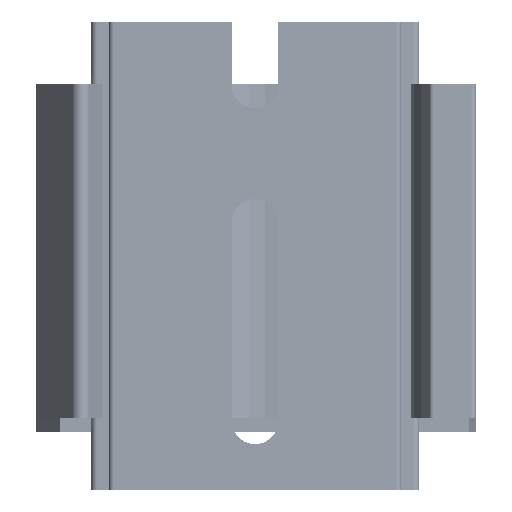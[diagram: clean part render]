
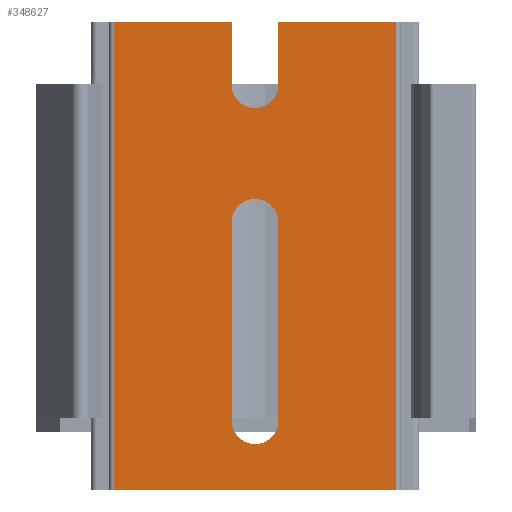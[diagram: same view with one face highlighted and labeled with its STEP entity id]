
A CAD part, front view. The second image highlights one B-rep face of the part: STEP entity #348627.
In plain terms, the highlighted planar face has unit normal (0, -1, 0).
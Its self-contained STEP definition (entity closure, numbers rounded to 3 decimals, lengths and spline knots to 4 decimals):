
#61416=CARTESIAN_POINT('',(2.7245,0.,-0.3861));
#61417=DIRECTION('',(0.,-1.,0.));
#61418=DIRECTION('',(-1.,0.,0.));
#61419=AXIS2_PLACEMENT_3D('',#61416,#61417,#61418);
#61421=DIRECTION('',(1.,0.,0.));
#61422=VECTOR('',#61421,0.4961);
#61423=CARTESIAN_POINT('',(2.8229,0.,-0.1223));
#61424=LINE('',#61423,#61422);
#61425=DIRECTION('',(-1.,0.,0.));
#61426=VECTOR('',#61425,1.189);
#61427=CARTESIAN_POINT('',(3.319,0.,
-2.0908));
#61428=LINE('',#61427,#61426);
#61429=DIRECTION('',(1.,0.,0.));
#61430=VECTOR('',#61429,0.4961);
#61431=CARTESIAN_POINT('',(2.13,0.,
-0.1223));
#61432=LINE('',#61431,#61430);
#61433=DIRECTION('',(0.,0.,-1.));
#61434=VECTOR('',#61433,0.2638);
#61435=CARTESIAN_POINT('',(2.6261,0.,-0.1223));
#61436=LINE('',#61435,#61434);
#61437=CARTESIAN_POINT('',(2.7245,0.,-1.7994));
#61438=DIRECTION('',(0.,-1.,0.));
#61439=DIRECTION('',(-1.,0.,0.));
#61440=AXIS2_PLACEMENT_3D('',#61437,#61438,#61439);
#61442=CARTESIAN_POINT('',(2.7245,0.,-0.9648));
#61443=DIRECTION('',(0.,-1.,0.));
#61444=DIRECTION('',(1.,0.,0.));
#61445=AXIS2_PLACEMENT_3D('',#61442,#61443,#61444);
#61447=DIRECTION('',(0.,0.,-1.));
#61448=VECTOR('',#61447,0.2638);
#61449=CARTESIAN_POINT('',(2.8229,0.,-0.1223));
#61450=LINE('',#61449,#61448);
#61627=DIRECTION('',(0.,0.,-1.));
#61628=VECTOR('',#61627,1.9685);
#61629=CARTESIAN_POINT('',(2.13,0.,
-0.1223));
#61630=LINE('',#61629,#61628);
#148387=DIRECTION('',(0.,0.,1.));
#148388=VECTOR('',#148387,1.9685);
#148389=CARTESIAN_POINT('',(3.319,0.,
-2.0908));
#148390=LINE('',#148389,#148388);
#148643=DIRECTION('',(0.,0.,1.));
#148644=VECTOR('',#148643,0.8346);
#148645=CARTESIAN_POINT('',(2.6261,0.,-1.7994));
#148646=LINE('',#148645,#148644);
#148655=DIRECTION('',(0.,0.,-1.));
#148656=VECTOR('',#148655,0.8346);
#148657=CARTESIAN_POINT('',(2.8229,0.,-0.9648));
#148658=LINE('',#148657,#148656);
#204957=CARTESIAN_POINT('',(2.13,0.,
-2.0908));
#204958=VERTEX_POINT('',#204957);
#204959=CARTESIAN_POINT('',(3.319,0.,
-2.0908));
#204961=VERTEX_POINT('',#204959);
#204987=CARTESIAN_POINT('',(2.6261,0.,-0.1223));
#204989=VERTEX_POINT('',#204987);
#204991=CARTESIAN_POINT('',(2.13,0.,
-0.1223));
#204993=VERTEX_POINT('',#204991);
#205018=CARTESIAN_POINT('',(2.8229,0.,-0.1223));
#205020=VERTEX_POINT('',#205018);
#205045=CARTESIAN_POINT('',(3.319,0.,
-0.1223));
#205046=VERTEX_POINT('',#205045);
#205047=CARTESIAN_POINT('',(2.6261,0.,-0.3861));
#205049=VERTEX_POINT('',#205047);
#205051=CARTESIAN_POINT('',(2.6261,0.,-1.7994));
#205052=CARTESIAN_POINT('',(2.8229,0.,-1.7994));
#205053=VERTEX_POINT('',#205051);
#205054=VERTEX_POINT('',#205052);
#205055=CARTESIAN_POINT('',(2.8229,0.,-0.9648));
#205056=VERTEX_POINT('',#205055);
#205057=CARTESIAN_POINT('',(2.6261,0.,-0.9648));
#205058=VERTEX_POINT('',#205057);
#205059=CARTESIAN_POINT('',(2.8229,0.,-0.3861));
#205060=VERTEX_POINT('',#205059);
#348595=CARTESIAN_POINT('',(2.7245,0.,-1.1065));
#348596=DIRECTION('',(0.,1.,0.));
#348597=DIRECTION('',(1.,0.,0.));
#348598=AXIS2_PLACEMENT_3D('',#348595,#348596,#348597);
#348599=PLANE('',#348598);
#348600=ORIENTED_EDGE('',*,*,#348585,.T.);
#348602=ORIENTED_EDGE('',*,*,#348601,.F.);
#348604=ORIENTED_EDGE('',*,*,#348603,.T.);
#348606=ORIENTED_EDGE('',*,*,#348605,.F.);
#348608=ORIENTED_EDGE('',*,*,#348607,.T.);
#348610=ORIENTED_EDGE('',*,*,#348609,.F.);
#348612=ORIENTED_EDGE('',*,*,#348611,.T.);
#348614=ORIENTED_EDGE('',*,*,#348613,.T.);
#348615=EDGE_LOOP('',(#348600,#348602,#348604,#348606,#348608,#348610,#348612,
#348614));
#348616=FACE_OUTER_BOUND('',#348615,.F.);
#348618=ORIENTED_EDGE('',*,*,#348617,.T.);
#348620=ORIENTED_EDGE('',*,*,#348619,.F.);
#348622=ORIENTED_EDGE('',*,*,#348621,.T.);
#348624=ORIENTED_EDGE('',*,*,#348623,.F.);
#348625=EDGE_LOOP('',(#348618,#348620,#348622,#348624));
#348626=FACE_BOUND('',#348625,.F.);
#348627=ADVANCED_FACE('',(#348616,#348626),#348599,.F.);
#61420=CIRCLE('',#61419,0.0984);
#61441=CIRCLE('',#61440,0.0984);
#61446=CIRCLE('',#61445,0.0984);
#348585=EDGE_CURVE('',#205049,#205060,#61420,.T.);
#348601=EDGE_CURVE('',#205020,#205060,#61450,.T.);
#348603=EDGE_CURVE('',#205020,#205046,#61424,.T.);
#348605=EDGE_CURVE('',#204961,#205046,#148390,.T.);
#348607=EDGE_CURVE('',#204961,#204958,#61428,.T.);
#348609=EDGE_CURVE('',#204993,#204958,#61630,.T.);
#348611=EDGE_CURVE('',#204993,#204989,#61432,.T.);
#348613=EDGE_CURVE('',#204989,#205049,#61436,.T.);
#348617=EDGE_CURVE('',#205053,#205054,#61441,.T.);
#348619=EDGE_CURVE('',#205056,#205054,#148658,.T.);
#348621=EDGE_CURVE('',#205056,#205058,#61446,.T.);
#348623=EDGE_CURVE('',#205053,#205058,#148646,.T.);
